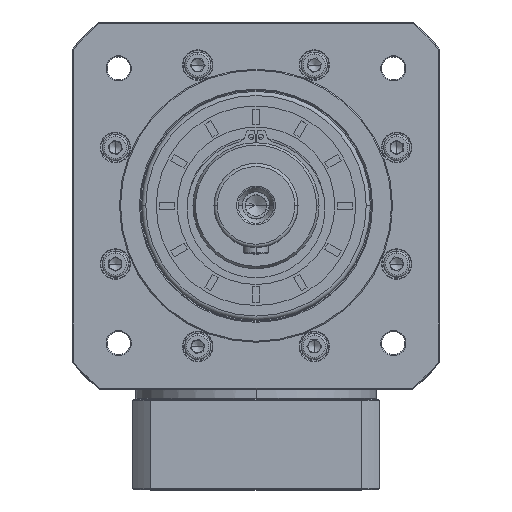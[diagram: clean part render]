
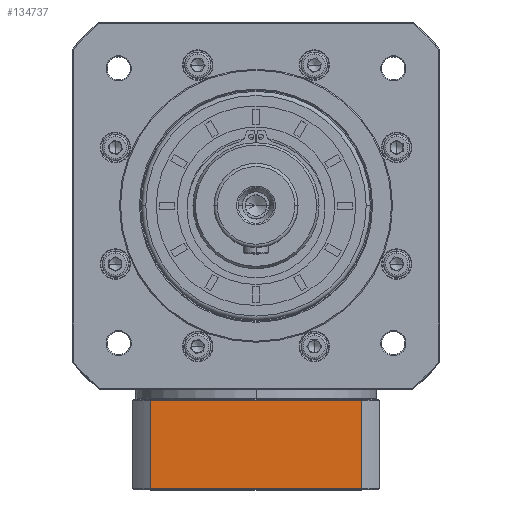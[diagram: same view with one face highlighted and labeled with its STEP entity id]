
A CAD part, top view. The second image highlights one B-rep face of the part: STEP entity #134737.
In plain terms, the highlighted planar face has unit normal (0, 0, 1).
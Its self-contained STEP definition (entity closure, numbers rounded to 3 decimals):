
#3674 = PLANE ( 'NONE',  #88782 ) ;
#4802 = CARTESIAN_POINT ( 'NONE',  ( -247.761, -157.778, 68.46 ) ) ;
#5526 = CARTESIAN_POINT ( 'NONE',  ( -147.257, 106.117, 68.46 ) ) ;
#8769 = EDGE_CURVE ( 'NONE', #131087, #24691, #87042, .T. ) ;
#12213 = VECTOR ( 'NONE', #94490, 1000. ) ;
#13897 = EDGE_LOOP ( 'NONE', ( #19561, #141655, #122924, #39545 ) ) ;
#19561 = ORIENTED_EDGE ( 'NONE', *, *, #28415, .F. ) ;
#24691 = VERTEX_POINT ( 'NONE', #102573 ) ;
#24740 = VERTEX_POINT ( 'NONE', #27840 ) ;
#27695 = DIRECTION ( 'NONE',  ( -1., 0., 0. ) ) ;
#27840 = CARTESIAN_POINT ( 'NONE',  ( -147.257, -157.778, 68.46 ) ) ;
#28415 = EDGE_CURVE ( 'NONE', #139391, #24740, #71897, .T. ) ;
#35614 = LINE ( 'NONE', #156628, #12213 ) ;
#39545 = ORIENTED_EDGE ( 'NONE', *, *, #103597, .F. ) ;
#45697 = LINE ( 'NONE', #147307, #141307 ) ;
#51732 = CARTESIAN_POINT ( 'NONE',  ( -256.509, -158.278, 68.46 ) ) ;
#52827 = DIRECTION ( 'NONE',  ( 0., 0., -1. ) ) ;
#57580 = EDGE_CURVE ( 'NONE', #24691, #139391, #35614, .T. ) ;
#69401 = DIRECTION ( 'NONE',  ( 0., 1., 0. ) ) ;
#71897 = LINE ( 'NONE', #5526, #91422 ) ;
#87042 = LINE ( 'NONE', #94989, #110449 ) ;
#88782 = AXIS2_PLACEMENT_3D ( 'NONE', #51732, #52827, #27695 ) ;
#91422 = VECTOR ( 'NONE', #92314, 1000. ) ;
#92314 = DIRECTION ( 'NONE',  ( 0., -1., 0. ) ) ;
#94490 = DIRECTION ( 'NONE',  ( 1., 0., 0. ) ) ;
#94989 = CARTESIAN_POINT ( 'NONE',  ( -247.761, -158.278, 68.46 ) ) ;
#102573 = CARTESIAN_POINT ( 'NONE',  ( -247.761, -115.778, 68.46 ) ) ;
#103597 = EDGE_CURVE ( 'NONE', #24740, #131087, #45697, .T. ) ;
#110449 = VECTOR ( 'NONE', #69401, 1000. ) ;
#115389 = CARTESIAN_POINT ( 'NONE',  ( -147.257, -115.778, 68.46 ) ) ;
#122924 = ORIENTED_EDGE ( 'NONE', *, *, #8769, .F. ) ;
#129078 = FACE_OUTER_BOUND ( 'NONE', #13897, .T. ) ;
#131087 = VERTEX_POINT ( 'NONE', #4802 ) ;
#134737 = ADVANCED_FACE ( 'NONE', ( #129078 ), #3674, .F. ) ;
#139391 = VERTEX_POINT ( 'NONE', #115389 ) ;
#141307 = VECTOR ( 'NONE', #158201, 1000. ) ;
#141655 = ORIENTED_EDGE ( 'NONE', *, *, #57580, .F. ) ;
#147307 = CARTESIAN_POINT ( 'NONE',  ( -256.509, -157.778, 68.46 ) ) ;
#156628 = CARTESIAN_POINT ( 'NONE',  ( -256.509, -115.778, 68.46 ) ) ;
#158201 = DIRECTION ( 'NONE',  ( -1., 0., 0. ) ) ;
